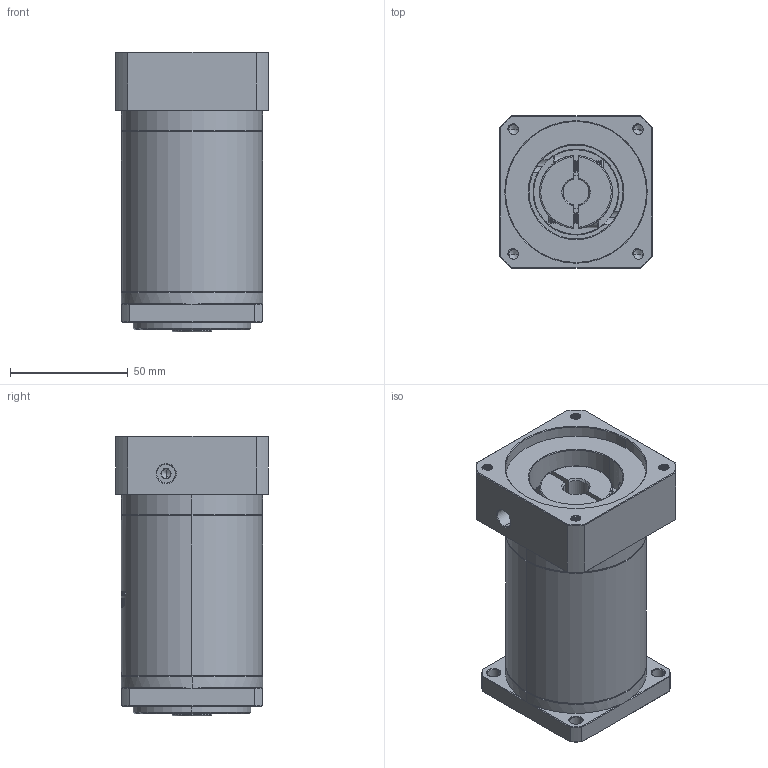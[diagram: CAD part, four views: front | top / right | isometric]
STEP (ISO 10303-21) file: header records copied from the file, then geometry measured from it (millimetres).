
FILE_DESCRIPTION (( 'STEP AP214' ), '1' );
FILE_NAME ('ZF60-K10-L3-11-60-75-M5.STEP', '2022-04-17T11:34:32', ( '' ), ( 'Microsoft' ), 'SwSTEP 2.0', 'SolidWorks 2016', '' );
FILE_SCHEMA (( 'AUTOMOTIVE_DESIGN' ));
Length unit declared in the file: millimetre
Products named in the file (1): ZF60-K10-L3-11-60-75-M5
Bounding box: 65 x 65 x 119 mm (x, y, z)
Volume: 326331.1 mm3; surface area: 52181.1 mm2
Topology: 6 solids, 6 shells, 1596 faces, 4314 edges, 2794 vertices
Faces by surface type: plane 742, cylinder 316, bspline 292, cone 228, torus 18
Entity records: 88192 total; most frequent: CARTESIAN_POINT 34014, ORIENTED_EDGE 8604, DIRECTION 6363, EDGE_CURVE 4302, VERTEX_POINT 2794, LINE 2221, VECTOR 2221, AXIS2_PLACEMENT_3D 2071
